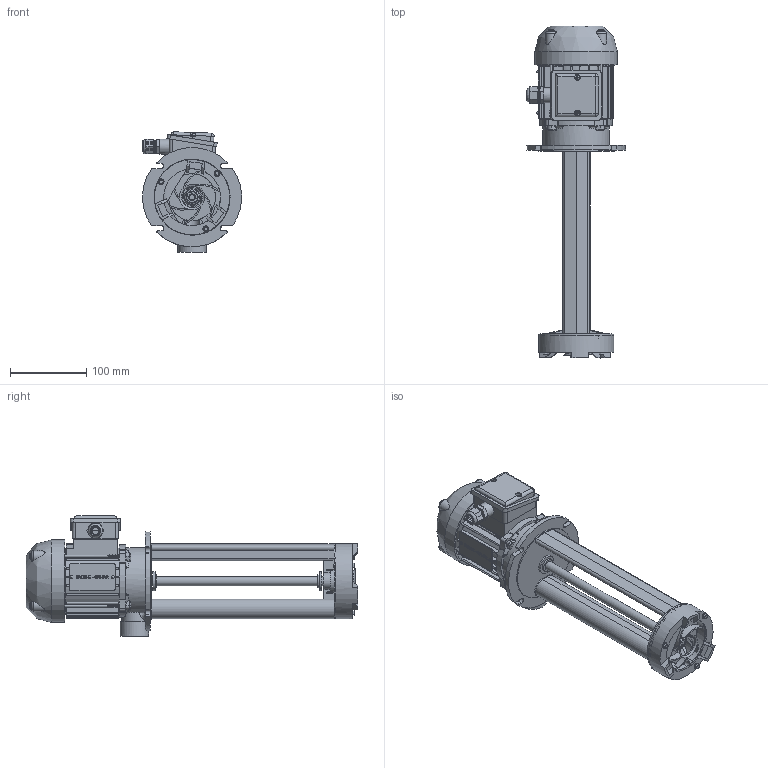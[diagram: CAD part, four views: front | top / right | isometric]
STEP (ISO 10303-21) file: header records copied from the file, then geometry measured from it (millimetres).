
FILE_DESCRIPTION(/* description */ (''),/* implementation_level */ '2;1');
FILE_NAME(/* name */ 'P:\3D PER CLIENTI\POMPE\SPV\YT56SVB++270.stp',/* time_stamp */ '2019-02-08T14:57:44+01:00',/* author */ ('cboccato'),/* organization */ (''),/* preprocessor_version */ 'ST-DEVELOPER v17.2',/* originating_system */ 'Autodesk Inventor 2019',/* authorisation */ '');
FILE_SCHEMA (('CONFIG_CONTROL_DESIGN'));
Products named in the file (1): YT56SVB++270_iLogic_Shrinkwrap
Bounding box: 129.78 x 434.79 x 157.58 mm (x, y, z)
Volume: 720683.4 mm3; surface area: 408342.6 mm2
Topology: 14 solids, 16 shells, 2045 faces, 5695 edges, 3683 vertices
Faces by surface type: plane 1093, cylinder 514, bspline 233, cone 119, torus 60, sphere 26
Full cylindrical faces by diameter (mm): 1.1 x2, 2.53 x2, 2.56 x71, 3 x2, 3.3 x3, 3.5 x8, 3.8 x4, 4 x1, 4.5 x3, 4.58 x4, 5 x3, 6.5 x4, 7 x4, 7.5 x2, 7.6 x3, 7.9 x4, 8 x1, 8.5 x2, 8.6 x4, 10 x1, 11.3 x1, 11.5 x2, 11.95 x6, 12 x2, 12.004 x2, 13.154 x1, 13.376 x1, 13.8 x1, 14 x1, 14.4 x1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
Entity records: 86068 total; most frequent: CARTESIAN_POINT 32530, ORIENTED_EDGE 11392, DIRECTION 9925, EDGE_CURVE 5696, VERTEX_POINT 3694, AXIS2_PLACEMENT_3D 3540, LINE 2845, VECTOR 2845
